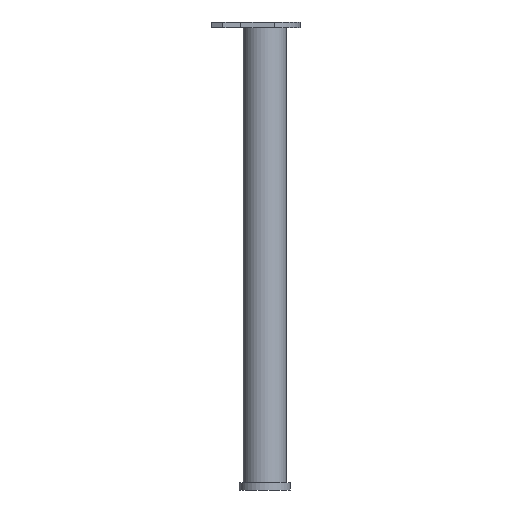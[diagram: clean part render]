
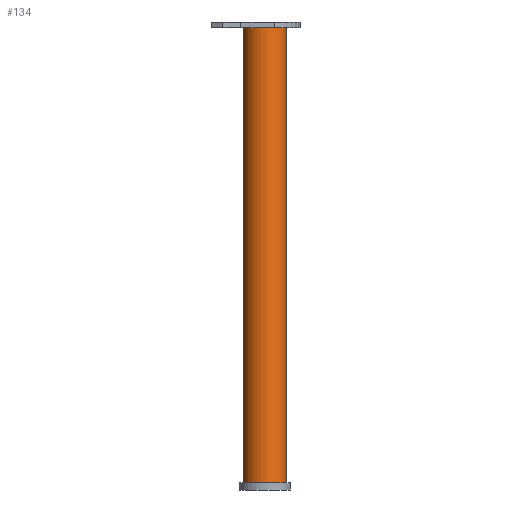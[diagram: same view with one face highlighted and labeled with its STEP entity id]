
A CAD part, left-side view. The second image highlights one B-rep face of the part: STEP entity #134.
In plain terms, the highlighted cylindrical face has radius 30 mm (diameter 60 mm), a full revolution.
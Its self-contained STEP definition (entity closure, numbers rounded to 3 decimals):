
#134 = ADVANCED_FACE( '', ( #280, #281 ), #282, .T. );
#280 = FACE_OUTER_BOUND( '', #456, .T. );
#281 = FACE_OUTER_BOUND( '', #457, .T. );
#282 = CYLINDRICAL_SURFACE( '', #458, 30. );
#456 = EDGE_LOOP( '', ( #682 ) );
#457 = EDGE_LOOP( '', ( #683 ) );
#458 = AXIS2_PLACEMENT_3D( '', #684, #685, #686 );
#682 = ORIENTED_EDGE( '', *, *, #1021, .F. );
#683 = ORIENTED_EDGE( '', *, *, #1022, .F. );
#684 = CARTESIAN_POINT( '', ( 0., 0., -650. ) );
#685 = DIRECTION( '', ( 0., 0., -1. ) );
#686 = DIRECTION( '', ( 1., 0., 0. ) );
#1021 = EDGE_CURVE( '', #1215, #1215, #1216, .F. );
#1022 = EDGE_CURVE( '', #1217, #1217, #1218, .T. );
#1215 = VERTEX_POINT( '', #1470 );
#1216 = CIRCLE( '', #1471, 30. );
#1217 = VERTEX_POINT( '', #1472 );
#1218 = CIRCLE( '', #1473, 30. );
#1470 = CARTESIAN_POINT( '', ( 30., 0., -640. ) );
#1471 = AXIS2_PLACEMENT_3D( '', #1711, #1712, #1713 );
#1472 = CARTESIAN_POINT( '', ( 30., 0., -8. ) );
#1473 = AXIS2_PLACEMENT_3D( '', #1714, #1715, #1716 );
#1711 = CARTESIAN_POINT( '', ( 0., 0., -640. ) );
#1712 = DIRECTION( '', ( 0., 0., 1. ) );
#1713 = DIRECTION( '', ( 1., 0., 0. ) );
#1714 = CARTESIAN_POINT( '', ( 0., 0., -8. ) );
#1715 = DIRECTION( '', ( 0., 0., 1. ) );
#1716 = DIRECTION( '', ( 1., 0., 0. ) );
